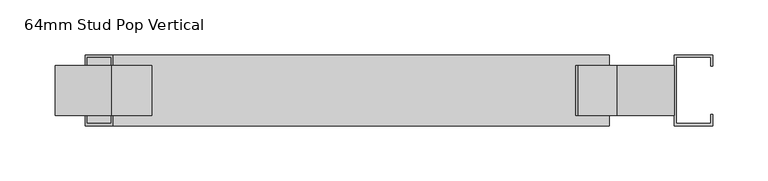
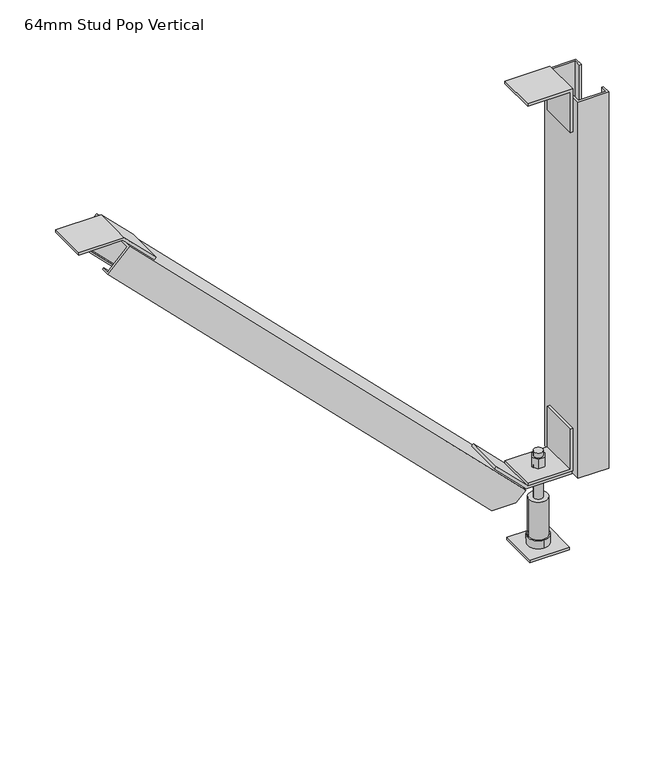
"""IFC4 building model written with IfcOpenShell, lengths in millimetres: beam geometry, Vertibrace Standard Brace : 64mm Stud Pop Vertical."""

from ifc_helpers import new_model, si_unit, frame, origin, origin_with_axes, place, context, project, spatial, polyline, circle_curve, outline, extrude, faceted_brep, source, transform, mapped, element, save
from ifc_brep_helpers import plane_surface, cylinder_surface, advanced_brep


def beam_64mm_stud_pop_vertical_5cf5dddc(model_context):
    return source(origin(), model_context, "Body", "SolidModel", [
        extrude(outline(polyline([(547.0013294, 23.235654), (498.7734408, 23.235654), (498.7734408, 26.2343246), (550.0, 26.2343246), (550.0, -24.9922346), (547.0013294, -24.9922346), (547.0013294, 23.235654)])), frame((0.0, -22.5, 0.0), z_axis=(0.0, 1.0, 0.0), x_axis=(0.0, 0.0, 1.0)), (0.0, 0.0, 1.0), 45.0),
        extrude(outline(polyline([(547.0013294, -483.535654), (511.6569723, -448.1912969), (513.7773526, -446.0709166), (550.0, -482.293564), (550.0, -533.5201232), (547.0013294, -533.5201232), (547.0013294, -483.535654)])), frame((0.0, -22.5, 0.0), z_axis=(0.0, 1.0, 0.0), x_axis=(0.0, 0.0, 1.0)), (0.0, 0.0, 1.0), 45.0),
        extrude(outline(polyline([(95.6986706, 23.235654), (95.6986706, -24.9922346), (92.7, -24.9922346), (92.7, 26.2343246), (143.9265592, 26.2343246), (143.9265592, 23.235654), (95.6986706, 23.235654)])), frame((0.0, -22.5, 0.0), z_axis=(0.0, 1.0, 0.0), x_axis=(0.0, 0.0, 1.0)), (0.0, 0.0, 1.0), 45.0),
        extrude(outline(polyline([(92.6986706, -24.9922346), (128.0430277, -60.3365917), (125.9226474, -62.456972), (89.7, -26.2343246), (89.7, 24.9922346), (92.6986706, 24.9922346), (92.6986706, -24.9922346)])), frame((0.0, -22.5, 0.0), z_axis=(0.0, 1.0, 0.0), x_axis=(0.0, 0.0, 1.0)), (0.0, 0.0, 1.0), 45.0),
        extrude(outline(polyline([(22.5, 22.5), (22.5, -22.5), (-22.5, -22.5), (-22.5, 22.5), (22.5, 22.5)])), origin_with_axes(), (0.0, 0.0, 1.0), 3.0),
        advanced_brep(
        [(-5.0, 0.0, 0.0), (5.0, 0.0, 0.0), (-5.0, 0.0, 113.0), (5.0, 0.0, 113.0), (5.0, 0.0, 3.0), (-5.0, 0.0, 3.0), (-5.0, 0.0, 107.4), (5.0, 0.0, 107.4), (-5.0, 0.0, 58.0), (5.0, 0.0, 58.0), (5.0, 0.0, 83.0), (-5.0, 0.0, 83.0), (5.0, 0.0, 95.7), (-5.0, 0.0, 95.7), (-5.0, 0.0, 89.7), (5.0, 0.0, 89.7), (-10.5, 0.0, 58.0), (10.5, 0.0, 58.0), (-10.5, 0.0, 13.0), (10.5, 0.0, 13.0), (0.0, -12.0, 13.0), (0.0, 12.0, 13.0), (3.75, 6.4951905, 107.4), (-3.75, 6.4951905, 107.4), (-7.5, 0.0, 107.4), (-3.75, -6.4951905, 107.4), (3.75, -6.4951905, 107.4), (7.5, 0.0, 107.4), (3.75, 6.4951905, 95.7), (7.5, 0.0, 95.7), (3.75, -6.4951905, 95.7), (-3.75, -6.4951905, 95.7), (-7.5, 0.0, 95.7), (-3.75, 6.4951905, 95.7), (-10.9696551, 0.0, 89.7), (-5.4848276, -9.5, 89.7), (5.4848276, -9.5, 89.7), (10.9696551, 0.0, 89.7), (5.4848276, 9.5, 89.7), (-5.4848276, 9.5, 89.7), (-10.9696551, 0.0, 83.0), (-5.4848276, 9.5, 83.0), (5.4848276, 9.5, 83.0), (10.9696551, 0.0, 83.0), (5.4848276, -9.5, 83.0), (-5.4848276, -9.5, 83.0), (0.0, -12.0, 3.0), (0.0, 12.0, 3.0)],
        [
            (0, 1, circle_curve(frame((0.0, 0.0, 0.0), z_axis=(0.0, 0.0, -1.0), x_axis=(1.0, 0.0, 0.0)), 5.0)),
            (1, 0, circle_curve(frame((0.0, 0.0, 0.0), z_axis=(0.0, 0.0, -1.0), x_axis=(1.0, 0.0, 0.0)), 5.0)),
            (2, 3, circle_curve(frame((0.0, 0.0, 113.0), z_axis=(0.0, 0.0, 1.0), x_axis=(1.0, 0.0, 0.0)), 5.0)),
            (3, 2, circle_curve(frame((0.0, 0.0, 113.0), z_axis=(0.0, 0.0, 1.0), x_axis=(1.0, 0.0, 0.0)), 5.0)),
            (1, 4),
            (4, 5, circle_curve(frame((0.0, 0.0, 3.0), z_axis=(0.0, 0.0, -1.0), x_axis=(1.0, 0.0, 0.0)), 5.0)),
            (5, 0),
            (2, 6),
            (6, 7, circle_curve(frame((0.0, 0.0, 107.4), z_axis=(0.0, 0.0, 1.0), x_axis=(1.0, 0.0, 0.0)), 5.0)),
            (7, 3),
            (8, 9, circle_curve(frame((0.0, 0.0, 58.0), z_axis=(0.0, 0.0, 1.0), x_axis=(1.0, 0.0, 0.0)), 5.0)),
            (9, 10),
            (10, 11, circle_curve(frame((0.0, 0.0, 83.0), z_axis=(0.0, 0.0, -1.0), x_axis=(1.0, 0.0, 0.0)), 5.0)),
            (11, 8),
            (12, 13, circle_curve(frame((0.0, 0.0, 95.7), z_axis=(0.0, 0.0, -1.0), x_axis=(1.0, 0.0, 0.0)), 5.0)),
            (13, 14),
            (14, 15, circle_curve(frame((0.0, 0.0, 89.7), z_axis=(0.0, 0.0, 1.0), x_axis=(1.0, 0.0, 0.0)), 5.0)),
            (15, 12),
            (5, 4, circle_curve(frame((0.0, 0.0, 3.0), z_axis=(0.0, 0.0, -1.0), x_axis=(1.0, 0.0, 0.0)), 5.0)),
            (7, 6, circle_curve(frame((0.0, 0.0, 107.4), z_axis=(0.0, 0.0, 1.0), x_axis=(1.0, 0.0, 0.0)), 5.0)),
            (9, 8, circle_curve(frame((0.0, 0.0, 58.0), z_axis=(0.0, 0.0, 1.0), x_axis=(1.0, 0.0, 0.0)), 5.0)),
            (11, 10, circle_curve(frame((0.0, 0.0, 83.0), z_axis=(0.0, 0.0, -1.0), x_axis=(1.0, 0.0, 0.0)), 5.0)),
            (13, 12, circle_curve(frame((0.0, 0.0, 95.7), z_axis=(0.0, 0.0, -1.0), x_axis=(1.0, 0.0, 0.0)), 5.0)),
            (15, 14, circle_curve(frame((0.0, 0.0, 89.7), z_axis=(0.0, 0.0, 1.0), x_axis=(1.0, 0.0, 0.0)), 5.0)),
            (16, 17, circle_curve(frame((0.0, 0.0, 58.0), z_axis=(0.0, 0.0, 1.0), x_axis=(1.0, 0.0, 0.0)), 10.5)),
            (17, 16, circle_curve(frame((0.0, 0.0, 58.0), z_axis=(0.0, 0.0, 1.0), x_axis=(1.0, 0.0, 0.0)), 10.5)),
            (16, 18),
            (18, 19, circle_curve(frame((0.0, 0.0, 13.0), z_axis=(0.0, 0.0, 1.0), x_axis=(1.0, 0.0, 0.0)), 10.5)),
            (19, 17),
            (19, 18, circle_curve(frame((0.0, 0.0, 13.0), z_axis=(0.0, 0.0, 1.0), x_axis=(1.0, 0.0, 0.0)), 10.5)),
            (20, 21, circle_curve(frame((0.0, 0.0, 13.0), z_axis=(0.0, 0.0, 1.0), x_axis=(0.0, 1.0, 0.0)), 12.0)),
            (21, 20, circle_curve(frame((0.0, 0.0, 13.0), z_axis=(0.0, 0.0, 1.0), x_axis=(0.0, 1.0, 0.0)), 12.0)),
            (22, 23),
            (23, 24),
            (24, 25),
            (25, 26),
            (26, 27),
            (27, 22),
            (28, 29),
            (29, 30),
            (30, 31),
            (31, 32),
            (32, 33),
            (33, 28),
            (22, 28),
            (33, 23),
            (32, 24),
            (31, 25),
            (30, 26),
            (29, 27),
            (34, 35),
            (35, 36),
            (36, 37),
            (37, 38),
            (38, 39),
            (39, 34),
            (40, 41),
            (41, 42),
            (42, 43),
            (43, 44),
            (44, 45),
            (45, 40),
            (34, 40),
            (45, 35),
            (44, 36),
            (43, 37),
            (42, 38),
            (41, 39),
            (46, 47, circle_curve(frame((0.0, 0.0, 3.0), z_axis=(0.0, 0.0, -1.0), x_axis=(0.0, 1.0, 0.0)), 12.0)),
            (47, 46, circle_curve(frame((0.0, 0.0, 3.0), z_axis=(0.0, 0.0, -1.0), x_axis=(0.0, 1.0, 0.0)), 12.0)),
            (47, 21),
            (20, 46),
        ],
        [
            plane_surface(frame((5.0, 0.0, 0.0), z_axis=(0.0, 0.0, -1.0), x_axis=(0.0, -1.0, 0.0))),
            plane_surface(frame((5.0, 0.0, 113.0), z_axis=(0.0, 0.0, 1.0), x_axis=(0.0, 1.0, 0.0))),
            cylinder_surface(origin_with_axes(), 5.0),
            plane_surface(frame((10.5, 0.0, 58.0), z_axis=(0.0, 0.0, 1.0), x_axis=(0.0, 1.0, 0.0))),
            cylinder_surface(frame((0.0, 0.0, 13.0), z_axis=(0.0, 0.0, 1.0), x_axis=(1.0, 0.0, 0.0)), 10.5),
            plane_surface(frame((0.0, 12.0, 13.0), z_axis=(0.0, 0.0, 1.0), x_axis=(-1.0, 0.0, 0.0))),
            plane_surface(frame((3.75, 6.4951905, 107.4), z_axis=(0.0, 0.0, 1.0), x_axis=(-1.0, 0.0, 0.0))),
            plane_surface(frame((3.75, 6.4951905, 95.7), z_axis=(0.0, 0.0, -1.0), x_axis=(1.0, 0.0, 0.0))),
            plane_surface(frame((3.75, 6.4951905, 107.4), z_axis=(0.0, 1.0, 0.0), x_axis=(0.0, 0.0, -1.0))),
            plane_surface(frame((-3.75, 6.4951905, 107.4), z_axis=(-0.866025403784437, 0.5000000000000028, 0.0), x_axis=(0.0, 0.0, -1.0))),
            plane_surface(frame((-7.5, 0.0, 107.4), z_axis=(-0.8660254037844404, -0.4999999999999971, 0.0), x_axis=(0.0, 0.0, -1.0))),
            plane_surface(frame((-3.75, -6.4951905, 107.4), z_axis=(0.0, -1.0, 0.0), x_axis=(0.0, 0.0, -1.0))),
            plane_surface(frame((3.75, -6.4951905, 107.4), z_axis=(0.8660254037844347, -0.500000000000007, 0.0), x_axis=(0.0, 0.0, -1.0))),
            plane_surface(frame((7.5, 0.0, 107.4), z_axis=(0.8660254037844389, 0.49999999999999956, 0.0), x_axis=(0.0, 0.0, -1.0))),
            plane_surface(frame((-10.9696551, 0.0, 89.7), z_axis=(0.0, 0.0, 1.0000000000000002), x_axis=(0.4999999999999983, -0.8660254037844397, 0.0))),
            plane_surface(frame((-10.9696551, 0.0, 83.0), z_axis=(0.0, 0.0, -1.0000000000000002), x_axis=(-0.4999999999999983, 0.8660254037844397, 0.0))),
            plane_surface(frame((-10.9696551, 0.0, 89.7), z_axis=(-0.8660254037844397, -0.4999999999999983, 0.0), x_axis=(0.0, 0.0, -1.0))),
            plane_surface(frame((-5.4848276, -9.5, 89.7), z_axis=(0.0, -1.0, 0.0), x_axis=(0.0, 0.0, -1.0))),
            plane_surface(frame((5.4848276, -9.5, 89.7), z_axis=(0.8660254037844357, -0.5000000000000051, 0.0), x_axis=(0.0, 0.0, -1.0))),
            plane_surface(frame((10.9696551, 0.0, 89.7), z_axis=(0.8660254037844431, 0.4999999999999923, 0.0), x_axis=(0.0, 0.0, -1.0))),
            plane_surface(frame((5.4848276, 9.5, 89.7), z_axis=(0.0, 1.0, 0.0), x_axis=(0.0, 0.0, -1.0))),
            plane_surface(frame((-5.4848276, 9.5, 89.7), z_axis=(-0.8660254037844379, 0.5000000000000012, 0.0), x_axis=(0.0, 0.0, -1.0))),
            plane_surface(frame((0.0, 12.0, 3.0), z_axis=(0.0, 0.0, -1.0), x_axis=(1.0, 0.0, 0.0))),
            cylinder_surface(frame((0.0, 0.0, 3.0), z_axis=(0.0, 0.0, 1.0), x_axis=(0.0, 1.0, 0.0)), 12.0),
        ],
        [
            (0, [[1, 2]]),
            (1, [[3, 4]]),
            (2, [[-2, 5, 6, 7]]),
            (2, [[-3, 8, 9, 10]]),
            (2, [[11, 12, 13, 14]]),
            (2, [[15, 16, 17, 18]]),
            (2, [[-1, -7, 19, -5]]),
            (2, [[-4, -10, 20, -8]]),
            (2, [[21, -14, 22, -12]]),
            (2, [[23, -18, 24, -16]]),
            (3, [[25, 26], [-11, -21]]),
            (4, [[-25, 27, 28, 29]]),
            (4, [[-26, -29, 30, -27]]),
            (5, [[31, 32], [-28, -30]]),
            (6, [[33, 34, 35, 36, 37, 38], [-9, -20]]),
            (7, [[39, 40, 41, 42, 43, 44], [-15, -23]]),
            (8, [[-33, 45, -44, 46]]),
            (9, [[-34, -46, -43, 47]]),
            (10, [[-35, -47, -42, 48]]),
            (11, [[-36, -48, -41, 49]]),
            (12, [[-37, -49, -40, 50]]),
            (13, [[-38, -50, -39, -45]]),
            (14, [[51, 52, 53, 54, 55, 56], [-17, -24]]),
            (15, [[57, 58, 59, 60, 61, 62], [-13, -22]]),
            (16, [[-51, 63, -62, 64]]),
            (17, [[-52, -64, -61, 65]]),
            (18, [[-53, -65, -60, 66]]),
            (19, [[-54, -66, -59, 67]]),
            (20, [[-55, -67, -58, 68]]),
            (21, [[-56, -68, -57, -63]]),
            (22, [[69, 70], [-6, -19]]),
            (23, [[-70, 71, -31, 72]]),
            (23, [[-69, -72, -32, -71]]),
        ],
    ),
        extrude(outline(polyline([(26.2343246, 32.0), (61.2343246, 32.0), (61.2343246, 22.0), (59.2343246, 22.0), (59.2343246, 30.0), (28.2343246, 30.0), (28.2343246, -30.0), (59.2343246, -30.0), (59.2343246, -22.0), (61.2343246, -22.0), (61.2343246, -32.0), (26.2343246, -32.0), (26.2343246, 32.0)])), frame((0.0, 0.0, 89.7), z_axis=(0.0, 0.0, 1.0), x_axis=(1.0, 0.0, 0.0)), (0.0, 0.0, 1.0), 450.3),
        faceted_brep([(-33.9485382, -30.0, 94.5857864), (-33.9485382, 30.0, 94.5857864), (-43.5343246, 30.0, 85.0), (-43.5343246, 32.0, 85.0), (-32.5343246, 32.0, 96.0), (-32.5343246, -32.0, 96.0), (-43.5343246, -32.0, 85.0), (-43.5343246, -30.0, 85.0), (-481.4883773, -32.0, 544.9540527), (-481.4883773, 32.0, 544.9540527), (-506.2371147, 32.0, 520.2053154), (-506.2371147, 22.0, 520.2053154), (-504.8229011, 22.0, 521.6195289), (-504.8229011, 30.0, 521.6195289), (-482.9025909, 30.0, 543.5398392), (-482.9025909, -30.0, 543.5398392), (-504.8229011, -30.0, 521.6195289), (-504.8229011, -22.0, 521.6195289), (-506.2371147, -22.0, 520.2053154), (-506.2371147, -32.0, 520.2053154), (-71.0317993, -32.0, 85.0), (-71.0317993, -22.0, 85.0), (-71.0317993, 32.0, 85.0), (-68.2033722, 30.0, 85.0), (-68.2033722, 22.0, 85.0), (-71.0317993, 22.0, 85.0), (-68.2033722, -22.0, 85.0), (-68.2033722, -30.0, 85.0)], [[[0, 1, 2, 3, 4, 5, 6, 7]], [[8, 9, 10, 11, 12, 13, 14, 15, 16, 17, 18, 19]], [[8, 19, 20, 6, 5]], [[19, 18, 21, 20]], [[10, 9, 4, 3, 22]], [[5, 4, 9, 8]], [[3, 2, 23, 24, 25, 22]], [[7, 6, 20, 21, 26, 27]], [[18, 17, 26, 21]], [[17, 16, 27, 26]], [[16, 15, 0, 7, 27]], [[1, 0, 15, 14]], [[14, 13, 23, 2, 1]], [[13, 12, 24, 23]], [[12, 11, 25, 24]], [[11, 10, 22, 25]]]),
    ])


if __name__ == "__main__":
    model = new_model("IFC4")
    model_context = context("Model", 3, world=origin())
    ifc_project = project(units=[si_unit("LENGTHUNIT", "METRE", prefix="MILLI")], contexts=[model_context])
    site = spatial("IfcSite", under=ifc_project)
    building = spatial("IfcBuilding", under=site)
    placement = place(None, origin())
    beam_64mm_stud_pop_vertical_shape = beam_64mm_stud_pop_vertical_5cf5dddc(model_context)
    element("IfcBeam", 1, ObjectType="Vertibrace Standard Brace : 64mm Stud Pop Vertical", at=placement, inside=building, context=model_context, shape_type="MappedRepresentation", body=[
        mapped(beam_64mm_stud_pop_vertical_shape, transform((0.0, 0.0, 0.0), x_axis=(1.0, 0.0, 0.0), y_axis=(0.0, 1.0, 0.0), z_axis=(0.0, 0.0, 1.0))),
    ])
    save(model, "model.ifc")
